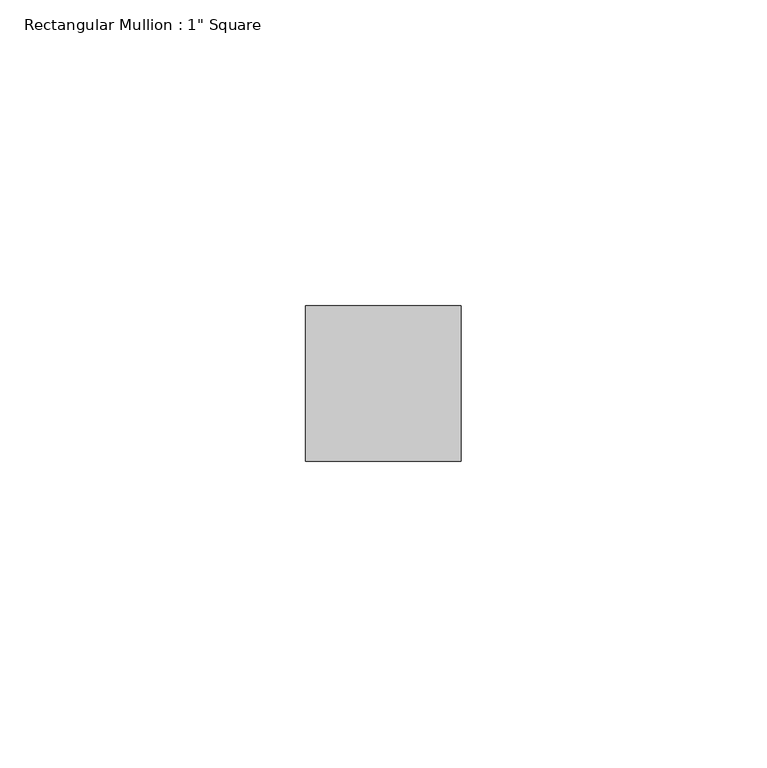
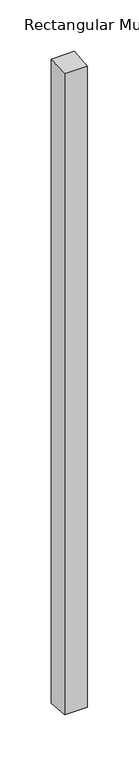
"""IFC4 building model written with IfcOpenShell, lengths in millimetres: member geometry."""

from ifc_helpers import new_model, si_unit, origin, place, context, project, spatial, faceted_brep, source, transform, mapped, element, save


def member_85a1b8f2(model_context):
    return source(origin(), model_context, "Body", "Brep", [
        faceted_brep([(-25.4, 12.7, 0.9168934), (0.0, 12.7, 1.0596268), (0.0, 12.7, -763.0596268), (-25.4, 12.7, -762.9168934), (-25.4, -12.7, -1.2023602), (-25.4, -12.7, -760.7976398), (0.0, -12.7, -1.0596268), (0.0, -12.7, -760.9403732)], [[[0, 1, 2, 3]], [[4, 0, 3, 5]], [[6, 4, 5, 7]], [[1, 6, 7, 2]], [[1, 0, 4, 6]], [[2, 7, 5, 3]]]),
    ])


if __name__ == "__main__":
    model = new_model("IFC4")
    model_context = context("Model", 3, world=origin())
    ifc_project = project(units=[si_unit("LENGTHUNIT", "METRE", prefix="MILLI")], contexts=[model_context])
    site = spatial("IfcSite", under=ifc_project)
    building = spatial("IfcBuilding", under=site)
    placement = place(None, origin())
    member_shape = member_85a1b8f2(model_context)
    element("IfcMember", 1, ObjectType="Rectangular Mullion : 1\" Square", at=placement, inside=building, context=model_context, shape_type="MappedRepresentation", body=[
        mapped(member_shape, transform((0.0, 0.0, 0.0), x_axis=(1.0, 0.0, 0.0), y_axis=(0.0, 1.0, 0.0), z_axis=(0.0, 0.0, 1.0))),
    ])
    save(model, "model.ifc")
